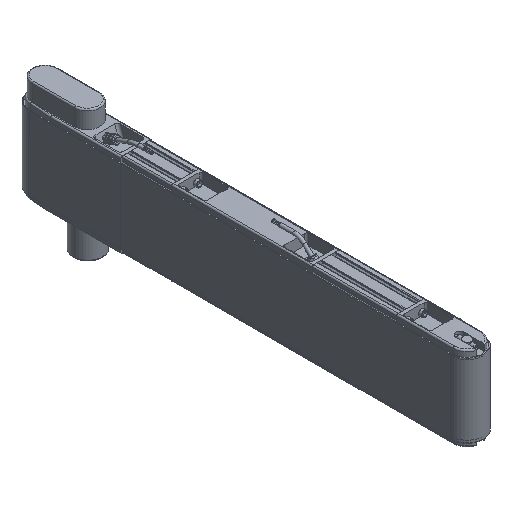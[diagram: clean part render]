
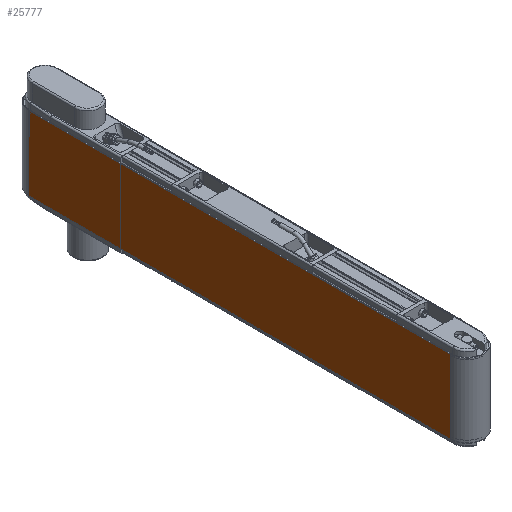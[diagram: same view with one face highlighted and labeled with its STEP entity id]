
A CAD part, isometric view. The second image highlights one B-rep face of the part: STEP entity #25777.
In plain terms, the highlighted planar face has unit normal (-1, 0, 0).
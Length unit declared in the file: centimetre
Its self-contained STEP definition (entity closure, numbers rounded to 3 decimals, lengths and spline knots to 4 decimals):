
#500=PLANE('',#27320);
#1600=FACE_OUTER_BOUND('',#2977,.T.);
#2977=EDGE_LOOP('',(#17087,#17088,#17089,#17090));
#5896=LINE('',#38271,#7987);
#5897=LINE('',#38276,#7988);
#5899=LINE('',#38280,#7990);
#5900=LINE('',#38281,#7991);
#7987=VECTOR('',#30488,1.);
#7988=VECTOR('',#30493,1.);
#7990=VECTOR('',#30497,1.);
#7991=VECTOR('',#30498,1.);
#10150=VERTEX_POINT('',#38265);
#10152=VERTEX_POINT('',#38269);
#10154=VERTEX_POINT('',#38274);
#10155=VERTEX_POINT('',#38279);
#12883=EDGE_CURVE('',#10150,#10152,#5896,.T.);
#12885=EDGE_CURVE('',#10154,#10152,#5897,.T.);
#12887=EDGE_CURVE('',#10154,#10155,#5899,.T.);
#12888=EDGE_CURVE('',#10155,#10150,#5900,.T.);
#17087=ORIENTED_EDGE('',*,*,#12887,.T.);
#17088=ORIENTED_EDGE('',*,*,#12888,.T.);
#17089=ORIENTED_EDGE('',*,*,#12883,.T.);
#17090=ORIENTED_EDGE('',*,*,#12885,.F.);
#25777=ADVANCED_FACE('',(#1600),#500,.T.);
#27320=AXIS2_PLACEMENT_3D('',#38278,#30495,#30496);
#30488=DIRECTION('',(0.,1.,0.));
#30493=DIRECTION('',(0.,0.,1.));
#30495=DIRECTION('center_axis',(-1.,0.,0.));
#30496=DIRECTION('ref_axis',(0.,0.,
1.));
#30497=DIRECTION('',(0.,-1.,0.));
#30498=DIRECTION('',(0.,0.,1.));
#38265=CARTESIAN_POINT('',(-2.32,-47.,5.25));
#38269=CARTESIAN_POINT('',(-2.32,13.,5.25));
#38271=CARTESIAN_POINT('',(-2.32,13.,5.25));
#38274=CARTESIAN_POINT('',(-2.32,13.,-5.25));
#38276=CARTESIAN_POINT('',(-2.32,13.,0.));
#38278=CARTESIAN_POINT('Origin',(-2.32,13.,0.));
#38279=CARTESIAN_POINT('',(-2.32,-47.,-5.25));
#38280=CARTESIAN_POINT('',(-2.32,13.,-5.25));
#38281=CARTESIAN_POINT('',(-2.32,-47.,0.));
